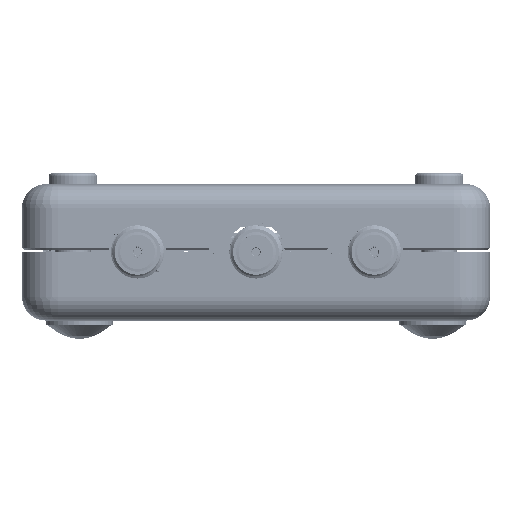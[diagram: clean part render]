
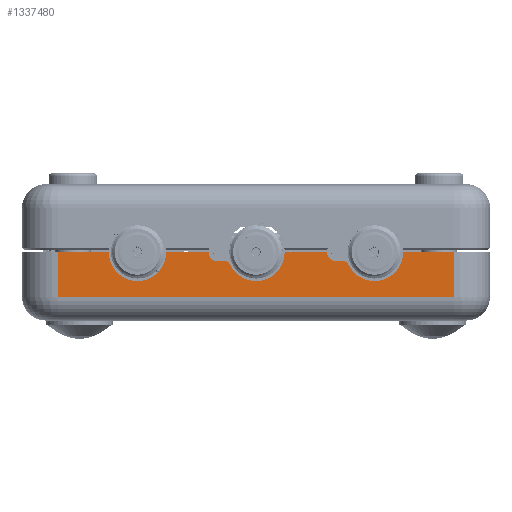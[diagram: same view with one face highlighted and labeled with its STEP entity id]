
A CAD part, left-side view. The second image highlights one B-rep face of the part: STEP entity #1337480.
In plain terms, the highlighted planar face has unit normal (-1, 0, 0).
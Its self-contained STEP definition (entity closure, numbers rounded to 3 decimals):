
#1327100=CARTESIAN_POINT('',(-2.311,2.022,
0.996));
#1327110=VERTEX_POINT('',#1327100);
#1327140=CARTESIAN_POINT('',(-2.311,2.022,
-0.699));
#1327150=DIRECTION('',(0.,0.,-1.));
#1327160=VECTOR('',#1327150,1.);
#1327170=LINE('',#1327140,#1327160);
#1327180=CARTESIAN_POINT('',(-2.311,2.022,
6.215));
#1327190=VERTEX_POINT('',#1327180);
#1327200=EDGE_CURVE('',#1327190,#1327110,#1327170,.T.);
#1327510=CARTESIAN_POINT('',(-2.311,42.748,6.215)
);
#1327520=VERTEX_POINT('',#1327510);
#1327680=CARTESIAN_POINT('',(-2.311,35.992,6.215)
);
#1327690=VERTEX_POINT('',#1327680);
#1327720=CARTESIAN_POINT('',(-2.311,39.37,6.215));
#1327730=DIRECTION('',(-1.,0.,0.));
#1327740=DIRECTION('',(0.,-1.,0.));
#1327750=AXIS2_PLACEMENT_3D('',#1327720,#1327730,#1327740);
#1327760=CIRCLE('',#1327750,3.378);
#1327770=EDGE_CURVE('',#1327520,#1327690,#1327760,.T.);
#1336250=CARTESIAN_POINT('',(-2.311,52.07,-0.699)
);
#1336260=DIRECTION('',(1.,-0.,0.));
#1336270=DIRECTION('',(0.,1.,0.));
#1336280=AXIS2_PLACEMENT_3D('',#1336250,#1336260,#1336270);
#1336290=PLANE('',#1336280);
#1336300=CARTESIAN_POINT('',(-2.311,25.4,6.215));
#1336310=DIRECTION('',(0.,1.,0.));
#1336320=VECTOR('',#1336310,1.);
#1336330=LINE('',#1336300,#1336320);
#1336340=CARTESIAN_POINT('',(-2.311,48.778,6.215)
);
#1336350=VERTEX_POINT('',#1336340);
#1336360=EDGE_CURVE('',#1327520,#1336350,#1336330,.T.);
#1336370=ORIENTED_EDGE('',*,*,#1336360,.T.);
#1336380=ORIENTED_EDGE('',*,*,#1327770,.F.);
#1336390=CARTESIAN_POINT('',(-2.311,25.4,6.215));
#1336400=DIRECTION('',(0.,1.,0.));
#1336410=VECTOR('',#1336400,1.);
#1336420=LINE('',#1336390,#1336410);
#1336430=CARTESIAN_POINT('',(-2.311,30.988,6.215))
;
#1336440=VERTEX_POINT('',#1336430);
#1336450=EDGE_CURVE('',#1336440,#1327690,#1336420,.T.);
#1336460=ORIENTED_EDGE('',*,*,#1336450,.T.);
#1336470=CARTESIAN_POINT('',(-2.311,29.972,6.215))
;
#1336480=DIRECTION('',(-1.,0.,0.));
#1336490=DIRECTION('',(0.,-1.,0.));
#1336500=AXIS2_PLACEMENT_3D('',#1336470,#1336480,#1336490);
#1336510=CIRCLE('',#1336500,1.016);
#1336520=CARTESIAN_POINT('',(-2.311,29.972,5.199))
;
#1336530=VERTEX_POINT('',#1336520);
#1336540=EDGE_CURVE('',#1336440,#1336530,#1336510,.T.);
#1336550=ORIENTED_EDGE('',*,*,#1336540,.F.);
#1336560=CARTESIAN_POINT('',(-2.311,25.4,5.199));
#1336570=DIRECTION('',(0.,-1.,0.));
#1336580=VECTOR('',#1336570,1.);
#1336590=LINE('',#1336560,#1336580);
#1336600=CARTESIAN_POINT('',(-2.311,29.058,
5.199));
#1336610=VERTEX_POINT('',#1336600);
#1336620=EDGE_CURVE('',#1336530,#1336610,#1336590,.T.);
#1336630=ORIENTED_EDGE('',*,*,#1336620,.F.);
#1336640=CARTESIAN_POINT('',(-2.311,29.058,
4.564));
#1336650=DIRECTION('',(-1.,0.,0.));
#1336660=DIRECTION('',(0.,-1.,0.));
#1336670=AXIS2_PLACEMENT_3D('',#1336640,#1336650,#1336660);
#1336680=CIRCLE('',#1336670,0.635);
#1336690=CARTESIAN_POINT('',(-2.311,28.479,
4.825));
#1336700=VERTEX_POINT('',#1336690);
#1336710=EDGE_CURVE('',#1336700,#1336610,#1336680,.T.);
#1336720=ORIENTED_EDGE('',*,*,#1336710,.T.);
#1336730=CARTESIAN_POINT('',(-2.311,25.4,6.215));
#1336740=DIRECTION('',(-1.,0.,0.));
#1336750=DIRECTION('',(0.,-1.,0.));
#1336760=AXIS2_PLACEMENT_3D('',#1336730,#1336740,#1336750);
#1336770=CIRCLE('',#1336760,3.378);
#1336780=CARTESIAN_POINT('',(-2.311,22.022,6.215)
);
#1336790=VERTEX_POINT('',#1336780);
#1336800=EDGE_CURVE('',#1336700,#1336790,#1336770,.T.);
#1336810=ORIENTED_EDGE('',*,*,#1336800,.F.);
#1336820=CARTESIAN_POINT('',(-2.311,25.4,6.215));
#1336830=DIRECTION('',(0.,1.,0.));
#1336840=VECTOR('',#1336830,1.);
#1336850=LINE('',#1336820,#1336840);
#1336860=CARTESIAN_POINT('',(-2.311,17.018,6.215))
;
#1336870=VERTEX_POINT('',#1336860);
#1336880=EDGE_CURVE('',#1336870,#1336790,#1336850,.T.);
#1336890=ORIENTED_EDGE('',*,*,#1336880,.T.);
#1336900=CARTESIAN_POINT('',(-2.311,16.002,6.215))
;
#1336910=DIRECTION('',(-1.,0.,0.));
#1336920=DIRECTION('',(0.,-1.,0.));
#1336930=AXIS2_PLACEMENT_3D('',#1336900,#1336910,#1336920);
#1336940=CIRCLE('',#1336930,1.016);
#1336950=CARTESIAN_POINT('',(-2.311,16.002,5.199))
;
#1336960=VERTEX_POINT('',#1336950);
#1336970=EDGE_CURVE('',#1336870,#1336960,#1336940,.T.);
#1336980=ORIENTED_EDGE('',*,*,#1336970,.F.);
#1336990=CARTESIAN_POINT('',(-2.311,25.4,5.199));
#1337000=DIRECTION('',(0.,-1.,0.));
#1337010=VECTOR('',#1337000,1.);
#1337020=LINE('',#1336990,#1337010);
#1337030=CARTESIAN_POINT('',(-2.311,15.088,
5.199));
#1337040=VERTEX_POINT('',#1337030);
#1337050=EDGE_CURVE('',#1336960,#1337040,#1337020,.T.);
#1337060=ORIENTED_EDGE('',*,*,#1337050,.F.);
#1337070=CARTESIAN_POINT('',(-2.311,15.088,
4.564));
#1337080=DIRECTION('',(-1.,0.,0.));
#1337090=DIRECTION('',(0.,-1.,0.));
#1337100=AXIS2_PLACEMENT_3D('',#1337070,#1337080,#1337090);
#1337110=CIRCLE('',#1337100,0.635);
#1337120=CARTESIAN_POINT('',(-2.311,14.509,
4.825));
#1337130=VERTEX_POINT('',#1337120);
#1337140=EDGE_CURVE('',#1337130,#1337040,#1337110,.T.);
#1337150=ORIENTED_EDGE('',*,*,#1337140,.T.);
#1337160=CARTESIAN_POINT('',(-2.311,11.43,6.215));
#1337170=DIRECTION('',(-1.,0.,0.));
#1337180=DIRECTION('',(0.,-1.,0.));
#1337190=AXIS2_PLACEMENT_3D('',#1337160,#1337170,#1337180);
#1337200=CIRCLE('',#1337190,3.378);
#1337210=CARTESIAN_POINT('',(-2.311,8.052,6.215))
;
#1337220=VERTEX_POINT('',#1337210);
#1337230=EDGE_CURVE('',#1337130,#1337220,#1337200,.T.);
#1337240=ORIENTED_EDGE('',*,*,#1337230,.F.);
#1337250=CARTESIAN_POINT('',(-2.311,25.4,6.215));
#1337260=DIRECTION('',(0.,1.,0.));
#1337270=VECTOR('',#1337260,1.);
#1337280=LINE('',#1337250,#1337270);
#1337290=EDGE_CURVE('',#1327190,#1337220,#1337280,.T.);
#1337300=ORIENTED_EDGE('',*,*,#1337290,.T.);
#1337310=ORIENTED_EDGE('',*,*,#1327200,.F.);
#1337320=CARTESIAN_POINT('',(-2.311,25.4,0.996));
#1337330=DIRECTION('',(0.,1.,0.));
#1337340=VECTOR('',#1337330,1.);
#1337350=LINE('',#1337320,#1337340);
#1337360=CARTESIAN_POINT('',(-2.311,48.778,0.996
));
#1337370=VERTEX_POINT('',#1337360);
#1337380=EDGE_CURVE('',#1327110,#1337370,#1337350,.T.);
#1337390=ORIENTED_EDGE('',*,*,#1337380,.F.);
#1337400=CARTESIAN_POINT('',(-2.311,48.778,
-0.699));
#1337410=DIRECTION('',(0.,0.,-1.));
#1337420=VECTOR('',#1337410,1.);
#1337430=LINE('',#1337400,#1337420);
#1337440=EDGE_CURVE('',#1336350,#1337370,#1337430,.T.);
#1337450=ORIENTED_EDGE('',*,*,#1337440,.T.);
#1337460=EDGE_LOOP('',(#1337450,#1337390,#1337310,#1337300,#1337240,
#1337150,#1337060,#1336980,#1336890,#1336810,#1336720,#1336630,#1336550,
#1336460,#1336380,#1336370));
#1337470=FACE_OUTER_BOUND('',#1337460,.T.);
#1337480=ADVANCED_FACE('',(#1337470),#1336290,.F.);
